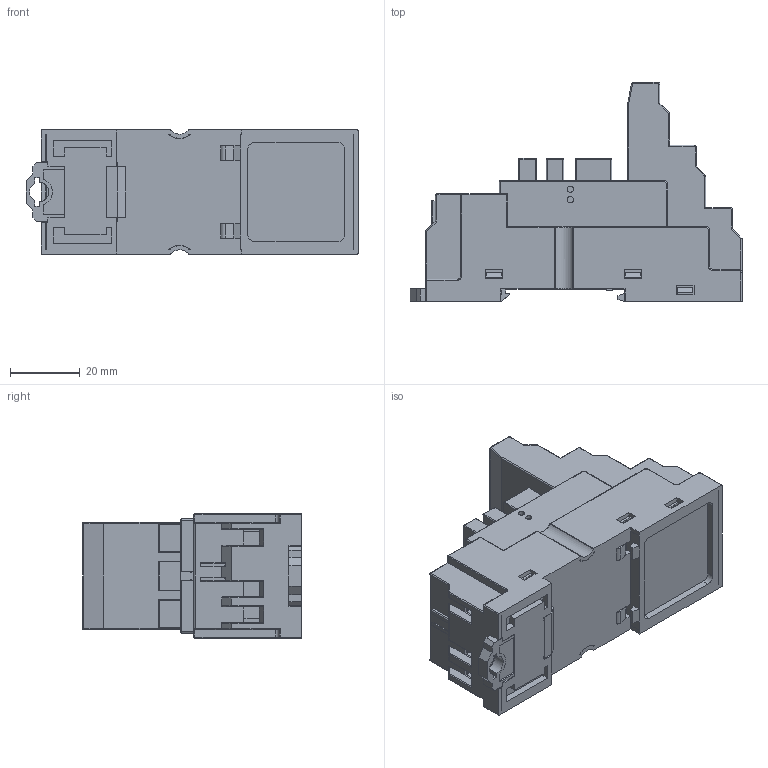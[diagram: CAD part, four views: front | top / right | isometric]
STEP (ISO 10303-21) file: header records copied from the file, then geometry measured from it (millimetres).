
FILE_DESCRIPTION (( 'STEP AP214' ), '1' );
FILE_NAME ('SEB11-E S 軞蚾芞.STEP', '2024-11-20T08:27:09', ( 'admin' ), ( '' ), 'SwSTEP 2.0', 'SolidWorks 2022', '' );
FILE_SCHEMA (( 'AUTOMOTIVE_DESIGN' ));
Length unit declared in the file: millimetre
Products named in the file (1): SEB11-E S 軞蚾芞
Bounding box: 95.49 x 62.98 x 35.8 mm (x, y, z)
Volume: 87803.9 mm3; surface area: 47763.7 mm2
Topology: 1 solids, 11 shells, 2045 faces, 5601 edges, 3512 vertices
Faces by surface type: plane 1532, cylinder 361, sphere 76, torus 47, cone 18, bspline 11
Entity records: 65777 total; most frequent: CARTESIAN_POINT 14155, ORIENTED_EDGE 11050, DIRECTION 10249, EDGE_CURVE 5525, VECTOR 4595, LINE 4595, VERTEX_POINT 3512, AXIS2_PLACEMENT_3D 2827
